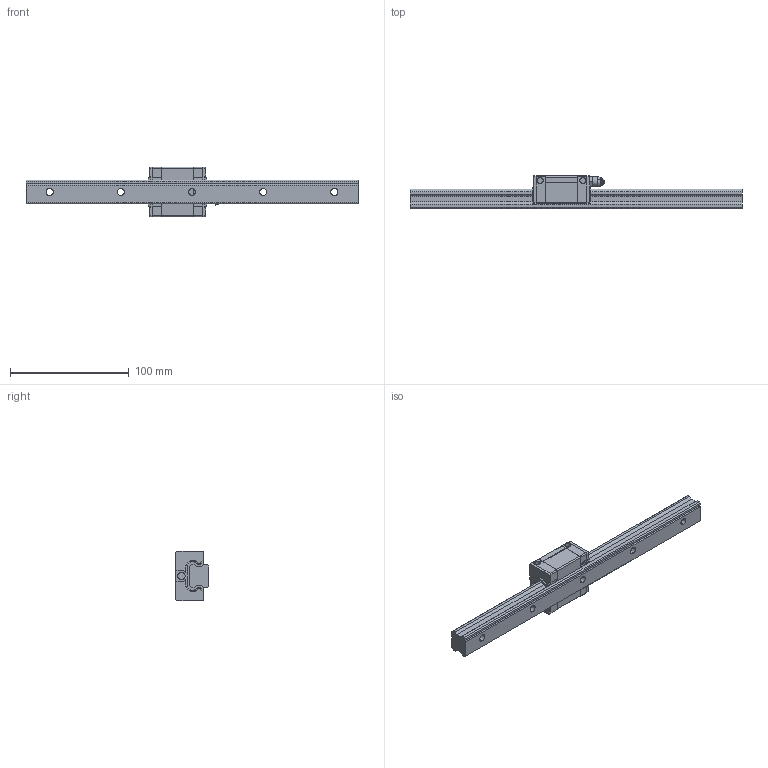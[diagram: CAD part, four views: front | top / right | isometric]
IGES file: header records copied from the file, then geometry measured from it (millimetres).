
Start section: SolidWorks IGES file using analytic representation for surfaces
Global section: file name: C:\Users\tsuch\OneDrive\デスクトップ\EG20関連修正(3D)\EGS20S.IGS; native system: SolidWorks 2019; preprocessor: SolidWorks 2019; author: tsuch; date: 210625.172109; units: millimetre
Bounding box: 280 x 28 x 42 mm (x, y, z)
Surface area: 39338.1 mm2 (no closed solid volume)
Topology: 0 solids, 0 shells, 491 faces, 4781 edges, 4777 vertices
Faces by surface type: bspline 330, revolution 161
